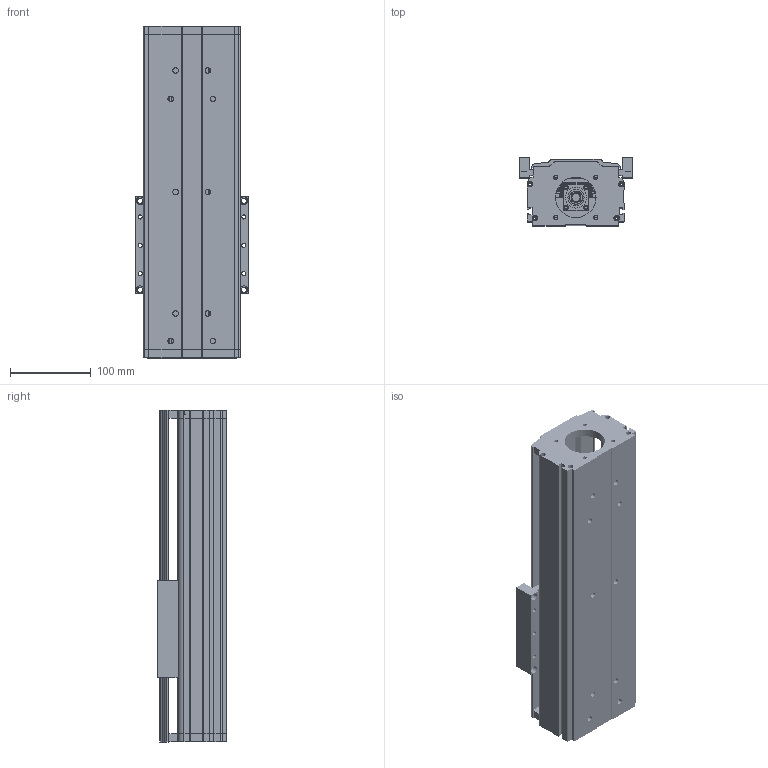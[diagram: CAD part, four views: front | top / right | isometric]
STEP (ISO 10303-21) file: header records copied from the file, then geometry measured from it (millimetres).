
FILE_DESCRIPTION (( 'STEP AP203' ), '1' );
FILE_NAME ('CF120-P200.STEP', '2016-03-10T08:46:10', ( 'Sky123.Org' ), ( 'Sky123.Org' ), 'SwSTEP 2.0', 'SolidWorks 2015', '' );
FILE_SCHEMA (( 'CONFIG_CONTROL_DESIGN' ));
Length unit declared in the file: millimetre
Products named in the file (15): CF120賑雄啣; cf120-60萇儂釱; CF120蹟譫釱; CF120傷裔耜啣-sigan; EGR15-P600-880; EGH-15-CABZnew; EK12+EF12-P600-744; SFU1605-3蹟譫; CF120-P350-540臏倰第; EK12; CF120-P350-560裔啣; 粣創結啣; CF120-P200; EF12
Assembly tree (18 placements, depth 3):
  CF120-P200
    cf120-60萇儂釱
    CF120傷裔耜啣-sigan
    EGH-15-CABZnew  x4
    SFU1605-3蹟譫
    EK12
      EK12
      粣創結啣
    EF12
    CF120賑雄啣
    CF120蹟譫釱
    EGR15-P600-880  x2
    EK12+EF12-P600-744
    CF120-P350-540臏倰第
    CF120-P350-560裔啣
Bounding box: 140 x 84.5 x 410 mm (x, y, z)
Volume: 1735915.7 mm3; surface area: 623324.9 mm2
Topology: 13 solids, 65 shells, 7208 faces, 27303 edges, 18771 vertices
Faces by surface type: plane 3521, bspline 2351, cylinder 946, cone 150, torus 136, sphere 104
Entity records: 128916 total; most frequent: CARTESIAN_POINT 57441, ORIENTED_EDGE 15296, DIRECTION 11834, EDGE_CURVE 8772, VERTEX_POINT 5980, VECTOR 5152, LINE 5152, AXIS2_PLACEMENT_3D 3341
